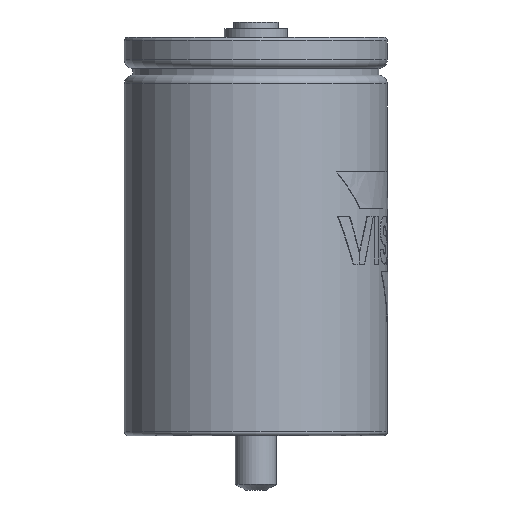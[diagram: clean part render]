
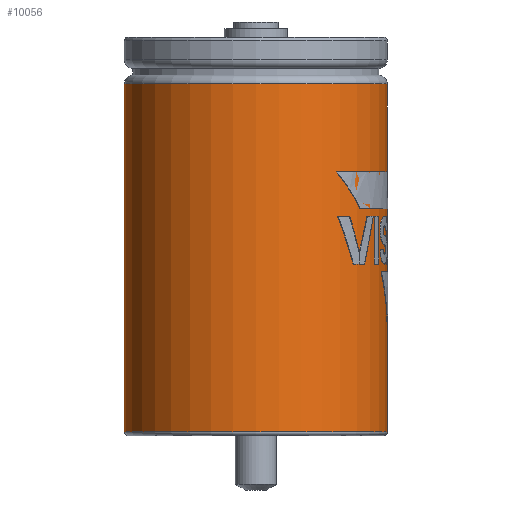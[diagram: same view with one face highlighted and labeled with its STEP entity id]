
A CAD part, left-side view. The second image highlights one B-rep face of the part: STEP entity #10056.
In plain terms, the highlighted cylindrical face has radius 38.2 mm (diameter 76.4 mm), a full revolution.
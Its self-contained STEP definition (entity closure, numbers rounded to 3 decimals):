
#9989 = TOROIDAL_SURFACE('',#9990,37.1,1.1);
#9990 = AXIS2_PLACEMENT_3D('',#9991,#9992,#9993);
#9991 = CARTESIAN_POINT('',(0.,0.,-113.6));
#9992 = DIRECTION('',(0.,0.,1.));
#9993 = DIRECTION('',(1.,0.,0.));
#10006 = VERTEX_POINT('',#10007);
#10007 = CARTESIAN_POINT('',(38.2,0.,-113.6));
#10029 = EDGE_CURVE('',#10006,#10006,#10030,.T.);
#10030 = SURFACE_CURVE('',#10031,(#10036,#10043),.PCURVE_S1.);
#10031 = CIRCLE('',#10032,38.2);
#10032 = AXIS2_PLACEMENT_3D('',#10033,#10034,#10035);
#10033 = CARTESIAN_POINT('',(0.,0.,-113.6));
#10034 = DIRECTION('',(0.,-0.,1.));
#10035 = DIRECTION('',(1.,0.,0.));
#10036 = PCURVE('',#9989,#10037);
#10037 = DEFINITIONAL_REPRESENTATION('',(#10038),#10042);
#10038 = LINE('',#10039,#10040);
#10039 = CARTESIAN_POINT('',(0.,6.283));
#10040 = VECTOR('',#10041,1.);
#10041 = DIRECTION('',(1.,0.));
#10042 = ( GEOMETRIC_REPRESENTATION_CONTEXT(2) 
PARAMETRIC_REPRESENTATION_CONTEXT() REPRESENTATION_CONTEXT('2D SPACE',''
  ) );
#10043 = PCURVE('',#10044,#10049);
#10044 = CYLINDRICAL_SURFACE('',#10045,38.2);
#10045 = AXIS2_PLACEMENT_3D('',#10046,#10047,#10048);
#10046 = CARTESIAN_POINT('',(0.,0.,-113.6));
#10047 = DIRECTION('',(0.,0.,1.));
#10048 = DIRECTION('',(1.,0.,0.));
#10049 = DEFINITIONAL_REPRESENTATION('',(#10050),#10054);
#10050 = LINE('',#10051,#10052);
#10051 = CARTESIAN_POINT('',(0.,0.));
#10052 = VECTOR('',#10053,1.);
#10053 = DIRECTION('',(1.,0.));
#10054 = ( GEOMETRIC_REPRESENTATION_CONTEXT(2) 
PARAMETRIC_REPRESENTATION_CONTEXT() REPRESENTATION_CONTEXT('2D SPACE',''
  ) );
#10056 = ADVANCED_FACE('',(#10057),#10044,.T.);
#10057 = FACE_BOUND('',#10058,.T.);
#10058 = EDGE_LOOP('',(#10059,#10060,#10083,#10110));
#10059 = ORIENTED_EDGE('',*,*,#10029,.T.);
#10060 = ORIENTED_EDGE('',*,*,#10061,.T.);
#10061 = EDGE_CURVE('',#10006,#10062,#10064,.T.);
#10062 = VERTEX_POINT('',#10063);
#10063 = CARTESIAN_POINT('',(38.2,0.,-12.5));
#10064 = SEAM_CURVE('',#10065,(#10069,#10076),.PCURVE_S1.);
#10065 = LINE('',#10066,#10067);
#10066 = CARTESIAN_POINT('',(38.2,0.,-113.6));
#10067 = VECTOR('',#10068,1.);
#10068 = DIRECTION('',(0.,0.,1.));
#10069 = PCURVE('',#10044,#10070);
#10070 = DEFINITIONAL_REPRESENTATION('',(#10071),#10075);
#10071 = LINE('',#10072,#10073);
#10072 = CARTESIAN_POINT('',(0.,0.));
#10073 = VECTOR('',#10074,1.);
#10074 = DIRECTION('',(0.,1.));
#10075 = ( GEOMETRIC_REPRESENTATION_CONTEXT(2) 
PARAMETRIC_REPRESENTATION_CONTEXT() REPRESENTATION_CONTEXT('2D SPACE',''
  ) );
#10076 = PCURVE('',#10044,#10077);
#10077 = DEFINITIONAL_REPRESENTATION('',(#10078),#10082);
#10078 = LINE('',#10079,#10080);
#10079 = CARTESIAN_POINT('',(6.283,0.));
#10080 = VECTOR('',#10081,1.);
#10081 = DIRECTION('',(0.,1.));
#10082 = ( GEOMETRIC_REPRESENTATION_CONTEXT(2) 
PARAMETRIC_REPRESENTATION_CONTEXT() REPRESENTATION_CONTEXT('2D SPACE',''
  ) );
#10083 = ORIENTED_EDGE('',*,*,#10084,.F.);
#10084 = EDGE_CURVE('',#10062,#10062,#10085,.T.);
#10085 = SURFACE_CURVE('',#10086,(#10091,#10098),.PCURVE_S1.);
#10086 = CIRCLE('',#10087,38.2);
#10087 = AXIS2_PLACEMENT_3D('',#10088,#10089,#10090);
#10088 = CARTESIAN_POINT('',(0.,0.,-12.5));
#10089 = DIRECTION('',(0.,-0.,1.));
#10090 = DIRECTION('',(1.,0.,0.));
#10091 = PCURVE('',#10044,#10092);
#10092 = DEFINITIONAL_REPRESENTATION('',(#10093),#10097);
#10093 = LINE('',#10094,#10095);
#10094 = CARTESIAN_POINT('',(0.,101.1));
#10095 = VECTOR('',#10096,1.);
#10096 = DIRECTION('',(1.,0.));
#10097 = ( GEOMETRIC_REPRESENTATION_CONTEXT(2) 
PARAMETRIC_REPRESENTATION_CONTEXT() REPRESENTATION_CONTEXT('2D SPACE',''
  ) );
#10098 = PCURVE('',#10099,#10104);
#10099 = TOROIDAL_SURFACE('',#10100,35.7,2.5);
#10100 = AXIS2_PLACEMENT_3D('',#10101,#10102,#10103);
#10101 = CARTESIAN_POINT('',(0.,0.,-12.5));
#10102 = DIRECTION('',(0.,0.,1.));
#10103 = DIRECTION('',(1.,0.,0.));
#10104 = DEFINITIONAL_REPRESENTATION('',(#10105),#10109);
#10105 = LINE('',#10106,#10107);
#10106 = CARTESIAN_POINT('',(0.,0.));
#10107 = VECTOR('',#10108,1.);
#10108 = DIRECTION('',(1.,0.));
#10109 = ( GEOMETRIC_REPRESENTATION_CONTEXT(2) 
PARAMETRIC_REPRESENTATION_CONTEXT() REPRESENTATION_CONTEXT('2D SPACE',''
  ) );
#10110 = ORIENTED_EDGE('',*,*,#10061,.F.);
